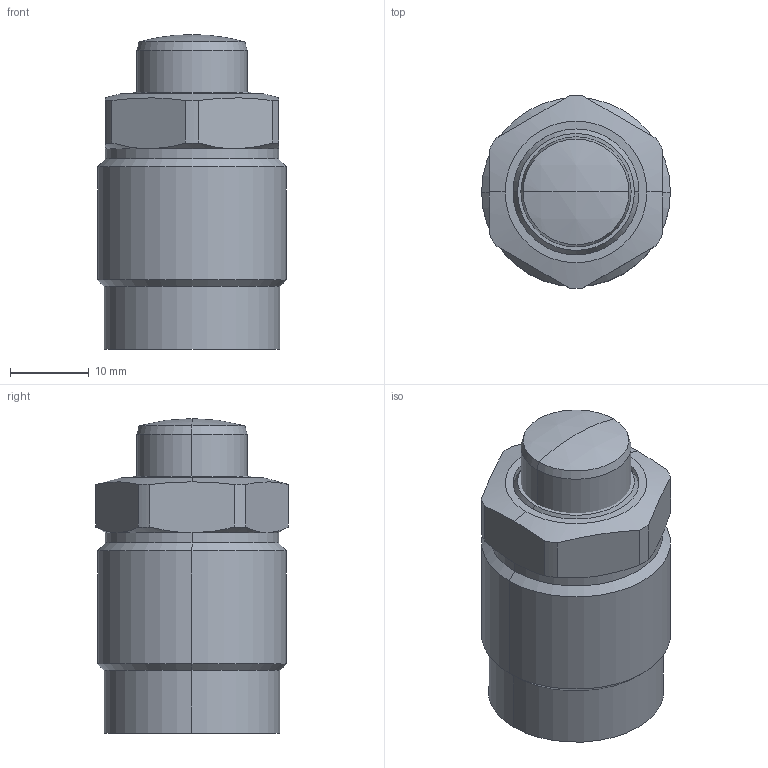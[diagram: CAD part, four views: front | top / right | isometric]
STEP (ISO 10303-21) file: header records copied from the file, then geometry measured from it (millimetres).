
FILE_DESCRIPTION (( 'STEP AP203' ), '1' );
FILE_NAME ('650241-RS.step', '2016-11-02T03:14:01', ( 'wxp' ), ( '' ), 'SwSTEP 2.0', 'SolidWorks 2011', '' );
FILE_SCHEMA (( 'CONFIG_CONTROL_DESIGN' ));
Length unit declared in the file: millimetre
Products named in the file (3): 葩璃 650241-RS.sldasm-Part-2^650241-RS; 葩璃 650241-RS.sldasm-Part-1^650241-RS; 650241-RS
Assembly tree (2 placements, depth 2):
  650241-RS
    葩璃 650241-RS.sldasm-Part-1^650241-RS
    葩璃 650241-RS.sldasm-Part-2^650241-RS
Bounding box: 24 x 24.49 x 40 mm (x, y, z)
Volume: 15003 mm3; surface area: 4235.3 mm2
Topology: 2 solids, 2 shells, 67 faces, 144 edges, 86 vertices
Faces by surface type: cylinder 26, cone 18, plane 15, torus 6, sphere 2
Entity records: 2167 total; most frequent: CARTESIAN_POINT 396, DIRECTION 344, ORIENTED_EDGE 284, AXIS2_PLACEMENT_3D 150, EDGE_CURVE 142, VERTEX_POINT 86, CIRCLE 78, EDGE_LOOP 74
